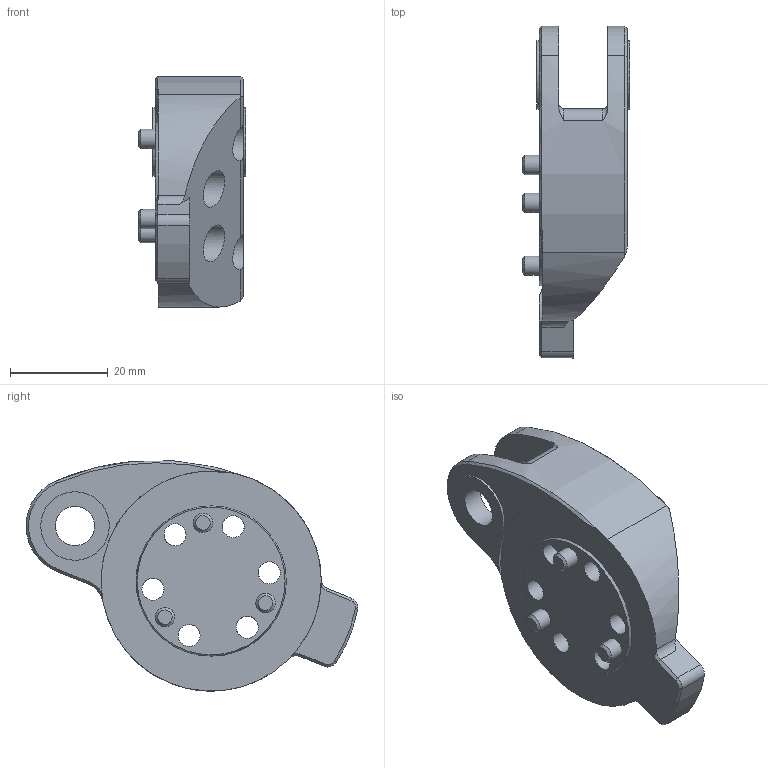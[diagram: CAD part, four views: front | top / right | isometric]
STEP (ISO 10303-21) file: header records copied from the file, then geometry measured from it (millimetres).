
FILE_DESCRIPTION(/* description */ ('STEP AP242 Edition 2','CAx-IF Rec.Pracs.---Representation and Presentation of Product Manufacturing Information (PMI)---4.0---2014-10-13','CAx-IF Rec.Pracs.---3D Tessellated Geometry---0.4---2014-09-14','2;1','CAx-IF Rec.Pracs.---User Defined Attributes---1.5---2016-08-15'),/* implementation_level */ '2;1');
FILE_NAME(/* name */ 'Assy_ForMFG - KD-D-502R_ANKLE-SHAFT-LEFT',/* time_stamp */ '2026-05-15T19:56:38Z',/* author */ (''),/* organization */ (''),/* preprocessor_version */ 'ST-DEVELOPER v20',/* originating_system */ 'ONSHAPE BY PTC INC, 1.215',/* authorisation */ ' ');
FILE_SCHEMA (('AP242_MANAGED_MODEL_BASED_3D_ENGINEERING_MIM_LF { 1 0 10303 442 3 1 4 }'));
Length unit declared in the file: metre
Products named in the file (1): KD-D-502R_ANKLE-SHAFT-LEFT
Bounding box: 22 x 67.8 x 47.04 mm (x, y, z)
Volume: 23962.6 mm3; surface area: 9679.5 mm2
Topology: 1 solids, 1 shells, 92 faces, 229 edges, 149 vertices
Faces by surface type: cylinder 41, plane 29, cone 16, torus 6
Full cylindrical faces by diameter (mm): 3.95 x3, 4.5 x6, 7.5 x6, 8 x2, 14 x2
Entity records: 2582 total; most frequent: DIRECTION 472, CARTESIAN_POINT 462, ORIENTED_EDGE 378, AXIS2_PLACEMENT_3D 204, EDGE_CURVE 189, EDGE_LOOP 141, FACE_BOUND 141, VERTEX_POINT 132
